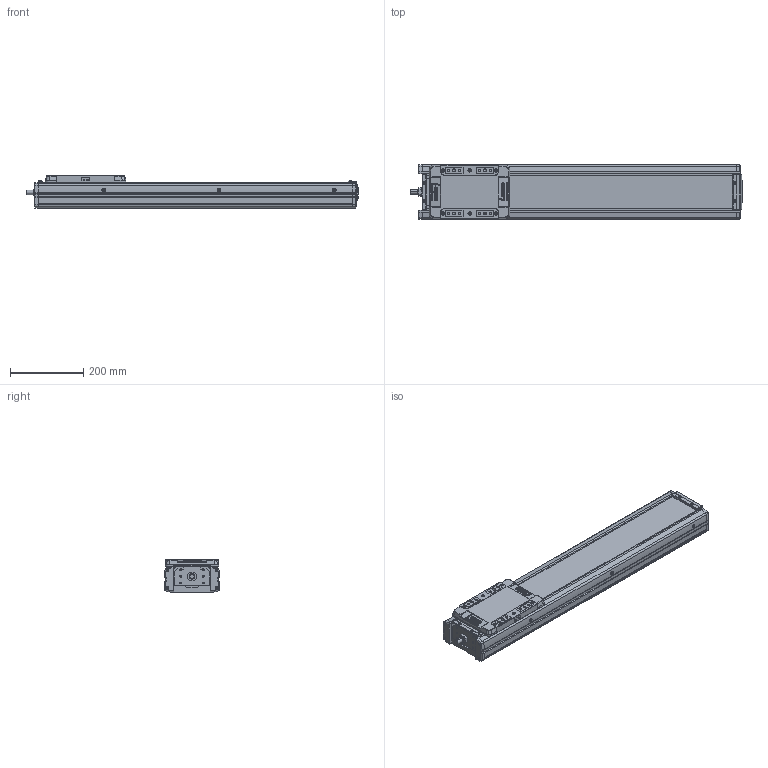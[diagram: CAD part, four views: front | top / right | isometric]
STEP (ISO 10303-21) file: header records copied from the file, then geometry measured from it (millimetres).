
FILE_DESCRIPTION(('STEP AP214'),'1');
FILE_NAME('Z:/Web/3D/SAN150/2013.04 (STP.)/SAN150ㅁㅁ-600.stp','2013-05-07T11:10:20',(' '),(' '),'Spatial InterOp 3D',' ',' ');
FILE_SCHEMA(('automotive_design'));
Length unit declared in the file: millimetre
Products named in the file (37): SLBL-SAN150; SLCV-SAN150; FHCS M4.0 x 8.0; BHCS M4.0 x 10.0; SFX-SAN150; RRCV-SAN150; FRBL-SAN150; Spacer; RN15; FRCV-SAN150; Screw 20; BASE-SAN150-000L ; SUS COVER; 스크루 : Round - M5.0 x 6.0
Bounding box: 908 x 150 x 90 mm (x, y, z)
Volume: 5025211.6 mm3; surface area: 935747.3 mm2
Topology: 37 solids, 37 shells, 2085 faces, 5368 edges, 3425 vertices
Faces by surface type: plane 1009, cylinder 745, cone 246, sphere 52, bspline 21, torus 12
Entity records: 82887 total; most frequent: CARTESIAN_POINT 13669, DIRECTION 11358, ORIENTED_EDGE 10520, EDGE_CURVE 5260, AXIS2_PLACEMENT_3D 4085, VERTEX_POINT 3425, LINE 3188, VECTOR 3188
